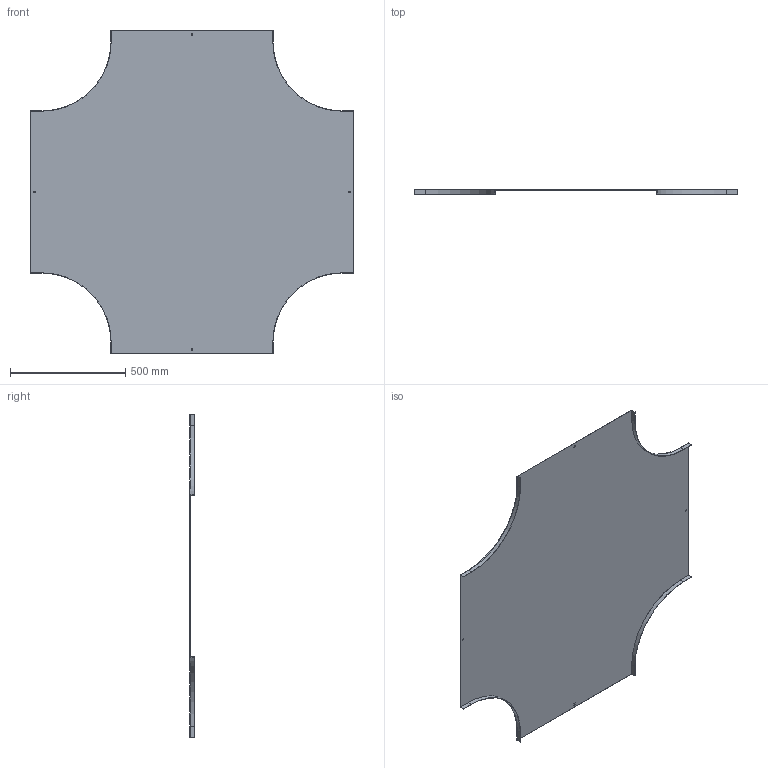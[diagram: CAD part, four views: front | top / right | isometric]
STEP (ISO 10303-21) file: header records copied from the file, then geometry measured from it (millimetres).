
FILE_DESCRIPTION (( 'STEP AP214' ), '1' );
FILE_NAME ('B2_17N3R700.step', '2025-02-21T12:08:57', ( '' ), ( '' ), 'SwSTEP 2.0', 'SolidWorks 2023', '' );
FILE_SCHEMA (( 'AUTOMOTIVE_DESIGN' ));
Length unit declared in the file: millimetre
Products named in the file (1): B2_17N3R700
Bounding box: 1400 x 20 x 1400 mm (x, y, z)
Volume: 2388941.3 mm3; surface area: 3193294.3 mm2
Topology: 1 solids, 1 shells, 50 faces, 144 edges, 96 vertices
Faces by surface type: plane 42, cylinder 8
Entity records: 1663 total; most frequent: CARTESIAN_POINT 291, ORIENTED_EDGE 288, DIRECTION 262, EDGE_CURVE 144, VECTOR 128, LINE 128, VERTEX_POINT 96, AXIS2_PLACEMENT_3D 67
